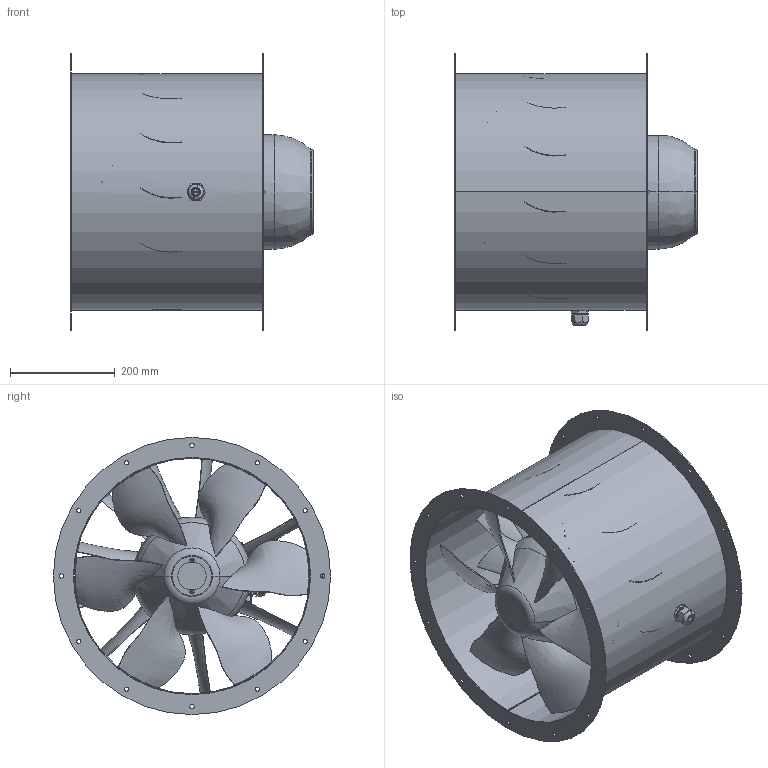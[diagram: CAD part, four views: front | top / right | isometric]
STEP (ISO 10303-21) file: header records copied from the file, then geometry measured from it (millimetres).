
FILE_DESCRIPTION (( 'STEP AP203' ), '1' );
FILE_NAME ('154106-00_AL450D201_step.step', '2020-05-29T08:45:38', ( '' ), ( '' ), 'SwSTEP 2.0', 'SolidWorks 2017', '' );
FILE_SCHEMA (( 'CONFIG_CONTROL_DESIGN' ));
Length unit declared in the file: millimetre
Products named in the file (1): 154106-00_AL450D201_step
Bounding box: 463.57 x 530 x 530 mm (x, y, z)
Surface area: 2152425.7 mm2 (no closed solid volume)
Topology: 0 solids, 108 shells, 1912 faces, 7731 edges, 5706 vertices
Faces by surface type: plane 924, cylinder 547, bspline 347, cone 64, torus 30
Entity records: 415547 total; most frequent: CARTESIAN_POINT 358415, ORIENTED_EDGE 10665, DIRECTION 10125, EDGE_CURVE 7717, VERTEX_POINT 5706, VECTOR 4173, LINE 4173, AXIS2_PLACEMENT_3D 2976
